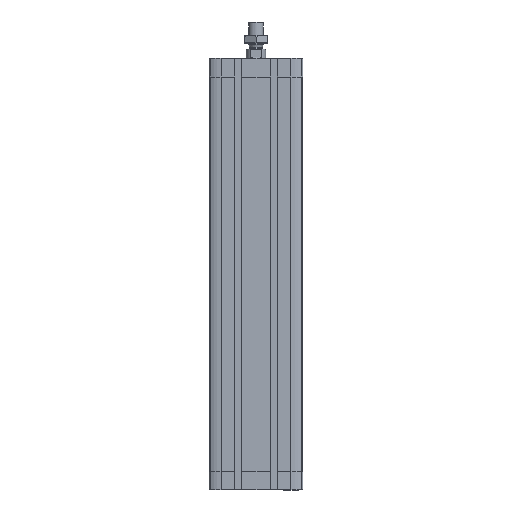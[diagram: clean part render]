
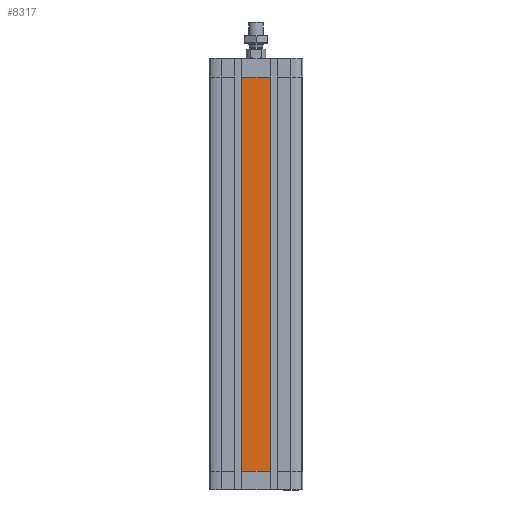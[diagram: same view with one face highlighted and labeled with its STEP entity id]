
A CAD part, front view. The second image highlights one B-rep face of the part: STEP entity #8317.
In plain terms, the highlighted planar face has unit normal (0, -1, 0).
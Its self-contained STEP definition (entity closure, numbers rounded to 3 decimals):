
#9 = LINE ( 'NONE', #11930, #15351 ) ;
#199 = ORIENTED_EDGE ( 'NONE', *, *, #1030, .T. ) ;
#231 = ORIENTED_EDGE ( 'NONE', *, *, #5587, .T. ) ;
#1030 = EDGE_CURVE ( 'NONE', #10058, #12348, #7309, .T. ) ;
#1031 = ORIENTED_EDGE ( 'NONE', *, *, #5098, .T. ) ;
#1053 = AXIS2_PLACEMENT_3D ( 'NONE', #8204, #10711, #3174 ) ;
#1318 = DIRECTION ( 'NONE',  ( 0., 0., 1. ) ) ;
#1327 = LINE ( 'NONE', #6362, #14197 ) ;
#1767 = ORIENTED_EDGE ( 'NONE', *, *, #11298, .T. ) ;
#1914 = VECTOR ( 'NONE', #15060, 1000. ) ;
#1933 = PLANE ( 'NONE',  #1053 ) ;
#2047 = VERTEX_POINT ( 'NONE', #16078 ) ;
#3174 = DIRECTION ( 'NONE',  ( 0., 0., -1. ) ) ;
#3998 = CARTESIAN_POINT ( 'NONE',  ( 0., -37.5, -15. ) ) ;
#5098 = EDGE_CURVE ( 'NONE', #12348, #2047, #5251, .T. ) ;
#5153 = DIRECTION ( 'NONE',  ( -1., 0., 0. ) ) ;
#5251 = LINE ( 'NONE', #11415, #1914 ) ;
#5587 = EDGE_CURVE ( 'NONE', #7723, #10058, #1327, .T. ) ;
#6362 = CARTESIAN_POINT ( 'NONE',  ( 11.4, -37.5, -334. ) ) ;
#7032 = FACE_OUTER_BOUND ( 'NONE', #9658, .T. ) ;
#7309 = LINE ( 'NONE', #3998, #10607 ) ;
#7723 = VERTEX_POINT ( 'NONE', #10725 ) ;
#8204 = CARTESIAN_POINT ( 'NONE',  ( -11.4, -37.5, -334. ) ) ;
#8317 = ADVANCED_FACE ( 'NONE', ( #7032 ), #1933, .T. ) ;
#9462 = CARTESIAN_POINT ( 'NONE',  ( 11.4, -37.5, -15. ) ) ;
#9658 = EDGE_LOOP ( 'NONE', ( #1767, #231, #199, #1031 ) ) ;
#10058 = VERTEX_POINT ( 'NONE', #9462 ) ;
#10607 = VECTOR ( 'NONE', #5153, 1000. ) ;
#10711 = DIRECTION ( 'NONE',  ( 0., -1., 0. ) ) ;
#10725 = CARTESIAN_POINT ( 'NONE',  ( 11.4, -37.5, -334. ) ) ;
#11298 = EDGE_CURVE ( 'NONE', #2047, #7723, #9, .T. ) ;
#11415 = CARTESIAN_POINT ( 'NONE',  ( -11.4, -37.5, -334. ) ) ;
#11930 = CARTESIAN_POINT ( 'NONE',  ( -11.4, -37.5, -334. ) ) ;
#12348 = VERTEX_POINT ( 'NONE', #15623 ) ;
#14197 = VECTOR ( 'NONE', #1318, 1000. ) ;
#15060 = DIRECTION ( 'NONE',  ( 0., 0., -1. ) ) ;
#15351 = VECTOR ( 'NONE', #15556, 1000. ) ;
#15556 = DIRECTION ( 'NONE',  ( 1., 0., 0. ) ) ;
#15623 = CARTESIAN_POINT ( 'NONE',  ( -11.4, -37.5, -15. ) ) ;
#16078 = CARTESIAN_POINT ( 'NONE',  ( -11.4, -37.5, -334. ) ) ;
